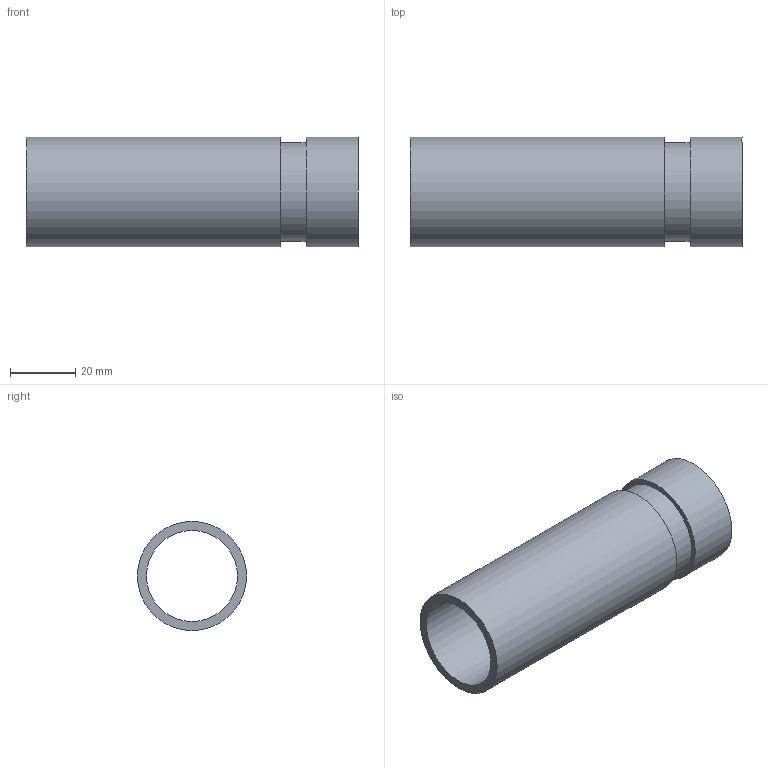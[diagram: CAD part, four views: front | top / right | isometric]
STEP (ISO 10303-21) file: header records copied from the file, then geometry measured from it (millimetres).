
FILE_DESCRIPTION(/* description */ ('VIC TRANSITION NIPPLE STYLE P577 (G X T)','CAx-IF Rec.Pracs.---Representation and Presentation of Product Manufacturing Information (PMI)---4.0---2014-10-13'),/* implementation_level */ '2;1');
FILE_NAME(/* name */ 'C:\Users\kkamble\AppData\Roaming\Autodesk\ApplicationPlugins\Back Up\Victaulic_SS-Vic-Press-TP 316_Nipple Transition_Style P577 (VPxPE)\Victaulic_SS-Vic-Press-TP 316_Nipple Transition_Style P577 (VPxPE)_1 (25).stp',/* time_stamp */ '2020-08-14T14:08:24+06:00',/* author */ ('cgray'),/* organization */ ('Victaulic'),/* preprocessor_version */ 'ST-DEVELOPER v17.2',/* originating_system */ 'Autodesk Inventor 2019',/* authorisation */ '');
FILE_SCHEMA (('AP242_MANAGED_MODEL_BASED_3D_ENGINEERING_MIM_LF { 1 0 10303 442 1 1 4 }'));
Length unit declared in the file: inch
Products named in the file (1): P577-01.0
Bounding box: 101.6 x 33.4 x 33.4 mm (x, y, z)
Volume: 25808.4 mm3; surface area: 20325.8 mm2
Topology: 1 solids, 1 shells, 8 faces, 20 edges, 16 vertices
Faces by surface type: cylinder 4, plane 4
Full cylindrical faces by diameter (mm): 27.864 x1, 30.226 x1, 33.401 x2
Entity records: 408 total; most frequent: DIRECTION 80, CARTESIAN_POINT 62, ORIENTED_EDGE 40, AXIS2_PLACEMENT_3D 38, EDGE_CURVE 20, CIRCLE 16, VERTEX_POINT 16, EDGE_LOOP 12
